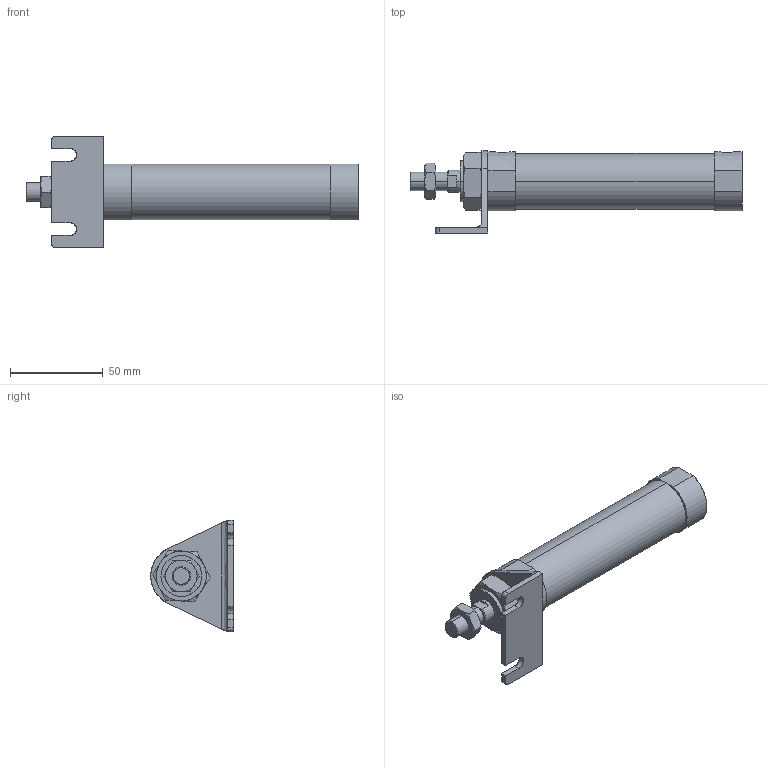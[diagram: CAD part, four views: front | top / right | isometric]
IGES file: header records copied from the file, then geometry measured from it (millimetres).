
Start section: SolidWorks IGES file using analytic representation for surfaces
Global section: file name: C:\Users\Toshiba\Desktop\JGND2-25-75-L.IGS; native system: SolidWorks 2014; preprocessor: SolidWorks 2014; author: Toshiba; date: 160804.103800; units: millimetre
Bounding box: 179 x 44.5 x 60 mm (x, y, z)
Surface area: 27483.1 mm2 (no closed solid volume)
Topology: 0 solids, 0 shells, 115 faces, 1928 edges, 1924 vertices
Faces by surface type: bspline 74, revolution 41
